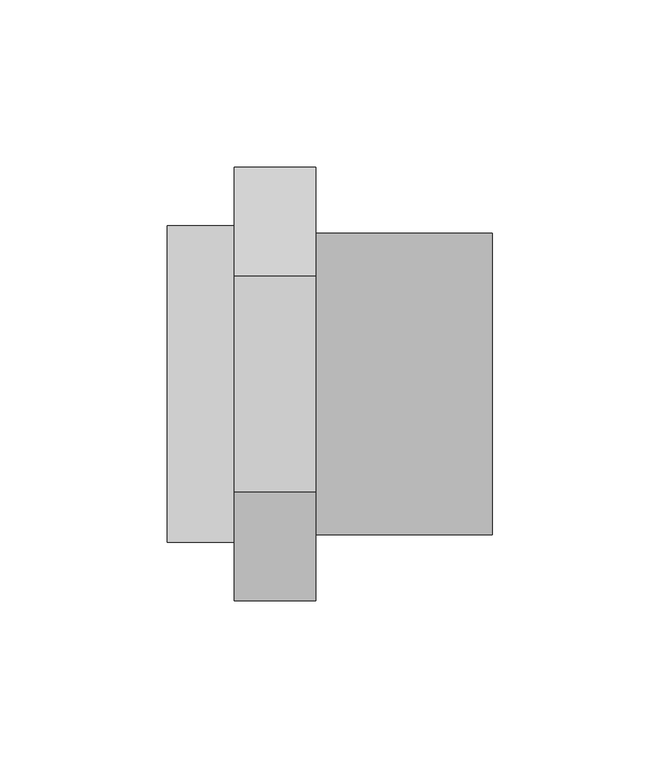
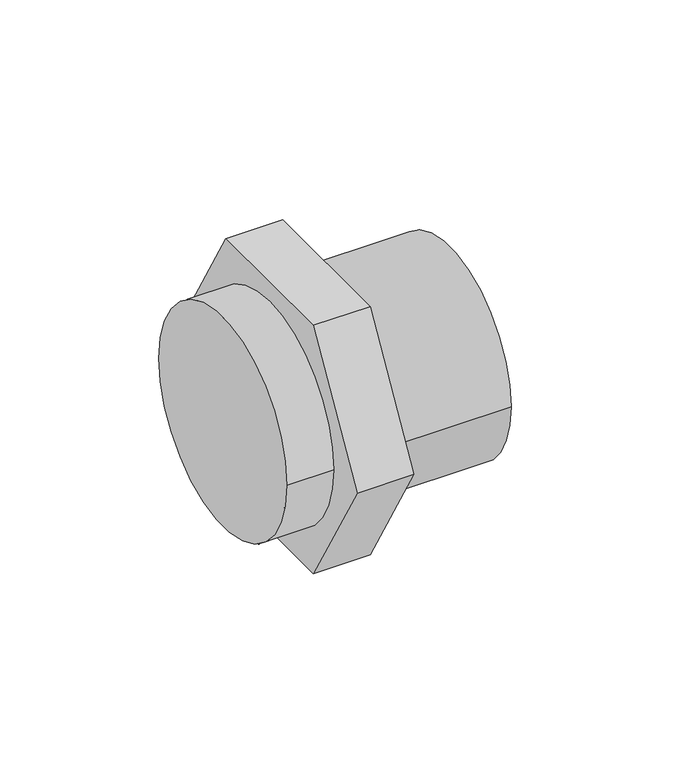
"""IFC4 building model written with IfcOpenShell, lengths in millimetres: pipe fitting geometry, 01101008 : Manguitos multiplos H/M/H."""

from ifc_helpers import new_model, si_unit, point, frame, origin, origin_2d, place, context, project, spatial, polyline, circle_curve, trimmed, segment, composite_curve, outline, extrude, source, transform, mapped, element, save


def pipe_fitting_a91aad01(model_context):
    return source(origin(), model_context, "Body", "SweptSolid", [
        extrude(outline(composite_curve([segment(trimmed(circle_curve(origin_2d(), 47.25), [point((47.25, 0.0))], [point((-47.25, 0.0))], False, "CARTESIAN"), True, "CONTINUOUS"), segment(trimmed(circle_curve(origin_2d(), 47.25), [point((-47.25, 0.0))], [point((47.25, 0.0))], False, "CARTESIAN"), True, "CONTINUOUS")], self_intersect=False)), frame((0.0, 0.0, 0.0), z_axis=(1.0, 0.0, 0.0), x_axis=(0.0, 1.0, 0.0)), (0.0, 0.0, 1.0), 20.0),
        extrude(outline(polyline([(-32.3316151, 56.0), (32.3316151, 56.0), (64.6632301, 0.0), (32.3316151, -56.0), (-32.3316151, -56.0), (-64.6632301, 0.0), (-32.3316151, 56.0)])), frame((20.0, 0.0, 0.0), z_axis=(1.0, 0.0, 0.0), x_axis=(0.0, 1.0, 0.0)), (0.0, 0.0, 1.0), 24.25),
        extrude(outline(composite_curve([segment(trimmed(circle_curve(origin_2d(), 45.0), [point((-45.0, 0.0))], [point((45.0, 0.0))], False, "CARTESIAN"), True, "CONTINUOUS"), segment(trimmed(circle_curve(origin_2d(), 45.0), [point((45.0, 0.0))], [point((-45.0, 0.0))], False, "CARTESIAN"), True, "CONTINUOUS")], self_intersect=False)), frame((44.25, 0.0, 0.0), z_axis=(1.0, 0.0, 0.0), x_axis=(0.0, 1.0, 0.0)), (0.0, 0.0, 1.0), 52.75),
    ])


if __name__ == "__main__":
    model = new_model("IFC4")
    model_context = context("Model", 3, world=origin())
    ifc_project = project(units=[si_unit("LENGTHUNIT", "METRE", prefix="MILLI")], contexts=[model_context])
    site = spatial("IfcSite", under=ifc_project)
    building = spatial("IfcBuilding", under=site)
    placement = place(None, origin())
    pipe_fitting_shape = pipe_fitting_a91aad01(model_context)
    element("IfcPipeFitting", 1, ObjectType="01101008 : Manguitos multiplos H/M/H", at=placement, inside=building, context=model_context, shape_type="MappedRepresentation", body=[
        mapped(pipe_fitting_shape, transform((0.0, 0.0, 0.0), x_axis=(1.0, 0.0, 0.0), y_axis=(0.0, 1.0, 0.0), z_axis=(0.0, 0.0, 1.0))),
    ])
    save(model, "model.ifc")
